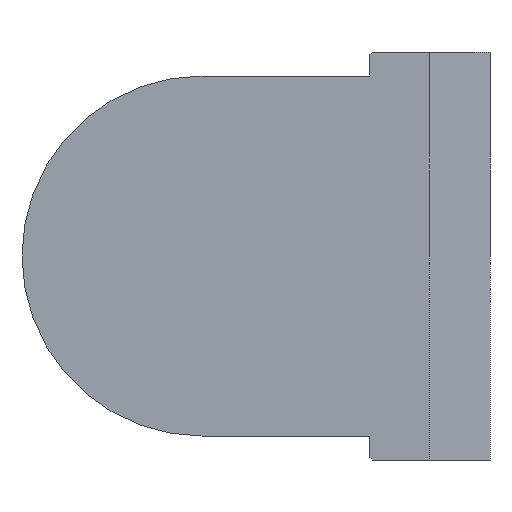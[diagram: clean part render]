
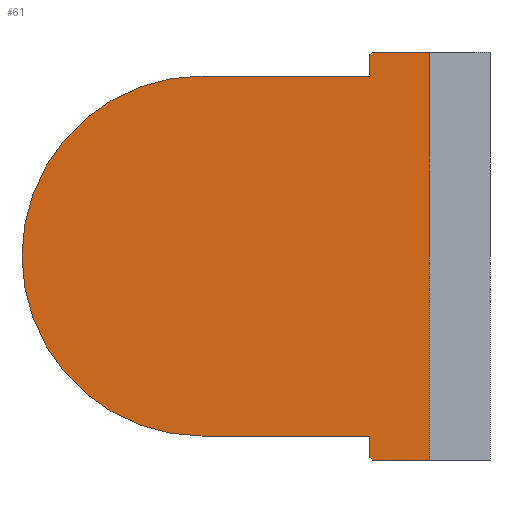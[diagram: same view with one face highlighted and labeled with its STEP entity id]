
A CAD part, left-side view. The second image highlights one B-rep face of the part: STEP entity #61.
In plain terms, the highlighted planar face has unit normal (-1, 0, 0).
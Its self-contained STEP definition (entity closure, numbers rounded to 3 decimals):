
#31 = ORIENTED_EDGE ( 'NONE', *, *, #32, .T. ) ;
#32 = EDGE_CURVE ( 'NONE', #37, #33, #428, .T. ) ;
#33 = VERTEX_POINT ( 'NONE', #429 ) ;
#34 = ORIENTED_EDGE ( 'NONE', *, *, #35, .T. ) ;
#35 = EDGE_CURVE ( 'NONE', #33, #36, #489, .T. ) ;
#36 = VERTEX_POINT ( 'NONE', #484 ) ;
#37 = VERTEX_POINT ( 'NONE', #483 ) ;
#38 = ORIENTED_EDGE ( 'NONE', *, *, #117, .F. ) ;
#39 = EDGE_CURVE ( 'NONE', #68, #40, #482, .T. ) ;
#40 = VERTEX_POINT ( 'NONE', #478 ) ;
#41 = ORIENTED_EDGE ( 'NONE', *, *, #42, .F. ) ;
#42 = EDGE_CURVE ( 'NONE', #43, #40, #477, .T. ) ;
#43 = VERTEX_POINT ( 'NONE', #473 ) ;
#44 = ORIENTED_EDGE ( 'NONE', *, *, #45, .T. ) ;
#45 = EDGE_CURVE ( 'NONE', #43, #46, #472, .T. ) ;
#46 = VERTEX_POINT ( 'NONE', #468 ) ;
#47 = ORIENTED_EDGE ( 'NONE', *, *, #48, .T. ) ;
#48 = EDGE_CURVE ( 'NONE', #46, #49, #467, .T. ) ;
#49 = VERTEX_POINT ( 'NONE', #463 ) ;
#53 = ORIENTED_EDGE ( 'NONE', *, *, #54, .T. ) ;
#54 = EDGE_CURVE ( 'NONE', #55, #56, #520, .T. ) ;
#55 = VERTEX_POINT ( 'NONE', #516 ) ;
#56 = VERTEX_POINT ( 'NONE', #515 ) ;
#57 = ORIENTED_EDGE ( 'NONE', *, *, #58, .T. ) ;
#58 = EDGE_CURVE ( 'NONE', #56, #59, #514, .T. ) ;
#59 = VERTEX_POINT ( 'NONE', #510 ) ;
#61 = ADVANCED_FACE ( 'NONE', ( #505 ), #504, .F. ) ;
#62 = EDGE_LOOP ( 'NONE', ( #53, #57, #66, #69, #41, #44, #47, #38, #31, #34, #115 ) ) ;
#66 = ORIENTED_EDGE ( 'NONE', *, *, #67, .T. ) ;
#67 = EDGE_CURVE ( 'NONE', #59, #68, #494, .T. ) ;
#68 = VERTEX_POINT ( 'NONE', #490 ) ;
#69 = ORIENTED_EDGE ( 'NONE', *, *, #39, .T. ) ;
#111 = EDGE_CURVE ( 'NONE', #36, #55, #611, .T. ) ;
#115 = ORIENTED_EDGE ( 'NONE', *, *, #111, .T. ) ;
#117 = EDGE_CURVE ( 'NONE', #37, #49, #595, .T. ) ;
#425 = DIRECTION ( 'NONE',  ( 0., 1., 0. ) ) ;
#426 = DIRECTION ( 'NONE',  ( -1., 0., 0. ) ) ;
#427 = AXIS2_PLACEMENT_3D ( 'NONE', #434, #426, #425 ) ;
#428 = CIRCLE ( 'NONE', #427, 150. ) ;
#429 = CARTESIAN_POINT ( 'NONE',  ( -345., 290., 0. ) ) ;
#434 = CARTESIAN_POINT ( 'NONE',  ( -345., 140., 0. ) ) ;
#463 = CARTESIAN_POINT ( 'NONE',  ( -345., 0., 150. ) ) ;
#464 = DIRECTION ( 'NONE',  ( 0., 0., -1. ) ) ;
#465 = VECTOR ( 'NONE', #464, 1000. ) ;
#466 = CARTESIAN_POINT ( 'NONE',  ( -345., 0., 170. ) ) ;
#467 = LINE ( 'NONE', #466, #465 ) ;
#468 = CARTESIAN_POINT ( 'NONE',  ( -345., 0., 168. ) ) ;
#469 = DIRECTION ( 'NONE',  ( 0., 0.707, -0.707 ) ) ;
#470 = VECTOR ( 'NONE', #469, 1000. ) ;
#471 = CARTESIAN_POINT ( 'NONE',  ( -345., -2., 170. ) ) ;
#472 = LINE ( 'NONE', #471, #470 ) ;
#473 = CARTESIAN_POINT ( 'NONE',  ( -345., -2., 170. ) ) ;
#474 = DIRECTION ( 'NONE',  ( 0., -1., 0. ) ) ;
#475 = VECTOR ( 'NONE', #474, 1000. ) ;
#476 = CARTESIAN_POINT ( 'NONE',  ( -345., -100., 170. ) ) ;
#477 = LINE ( 'NONE', #476, #475 ) ;
#478 = CARTESIAN_POINT ( 'NONE',  ( -345., -50., 170. ) ) ;
#479 = DIRECTION ( 'NONE',  ( 0., 0., 1. ) ) ;
#480 = VECTOR ( 'NONE', #479, 1000. ) ;
#481 = CARTESIAN_POINT ( 'NONE',  ( -345., -50., 150. ) ) ;
#482 = LINE ( 'NONE', #481, #480 ) ;
#483 = CARTESIAN_POINT ( 'NONE',  ( -345., 140., 150. ) ) ;
#484 = CARTESIAN_POINT ( 'NONE',  ( -345., 140., -150. ) ) ;
#485 = DIRECTION ( 'NONE',  ( 0., 1., 0. ) ) ;
#486 = DIRECTION ( 'NONE',  ( -1., 0., 0. ) ) ;
#487 = CARTESIAN_POINT ( 'NONE',  ( -345., 140., 0. ) ) ;
#488 = AXIS2_PLACEMENT_3D ( 'NONE', #487, #486, #485 ) ;
#489 = CIRCLE ( 'NONE', #488, 150. ) ;
#490 = CARTESIAN_POINT ( 'NONE',  ( -345., -50., -170. ) ) ;
#491 = DIRECTION ( 'NONE',  ( 0., -1., 0. ) ) ;
#492 = VECTOR ( 'NONE', #491, 1000. ) ;
#493 = CARTESIAN_POINT ( 'NONE',  ( -345., -100., -170. ) ) ;
#494 = LINE ( 'NONE', #493, #492 ) ;
#500 = DIRECTION ( 'NONE',  ( 0., 1., 0. ) ) ;
#501 = DIRECTION ( 'NONE',  ( 1., 0., 0. ) ) ;
#502 = CARTESIAN_POINT ( 'NONE',  ( -345., 290., 150. ) ) ;
#503 = AXIS2_PLACEMENT_3D ( 'NONE', #502, #501, #500 ) ;
#504 = PLANE ( 'NONE',  #503 ) ;
#505 = FACE_OUTER_BOUND ( 'NONE', #62, .T. ) ;
#510 = CARTESIAN_POINT ( 'NONE',  ( -345., -2., -170. ) ) ;
#511 = DIRECTION ( 'NONE',  ( 0., -0.707, -0.707 ) ) ;
#512 = VECTOR ( 'NONE', #511, 1000. ) ;
#513 = CARTESIAN_POINT ( 'NONE',  ( -345., 0., -168. ) ) ;
#514 = LINE ( 'NONE', #513, #512 ) ;
#515 = CARTESIAN_POINT ( 'NONE',  ( -345., 0., -168. ) ) ;
#516 = CARTESIAN_POINT ( 'NONE',  ( -345., 0., -150. ) ) ;
#517 = DIRECTION ( 'NONE',  ( 0., 0., -1. ) ) ;
#518 = VECTOR ( 'NONE', #517, 1000. ) ;
#519 = CARTESIAN_POINT ( 'NONE',  ( -345., 0., 170. ) ) ;
#520 = LINE ( 'NONE', #519, #518 ) ;
#592 = DIRECTION ( 'NONE',  ( 0., -1., 0. ) ) ;
#593 = VECTOR ( 'NONE', #592, 1000. ) ;
#594 = CARTESIAN_POINT ( 'NONE',  ( -345., 290., 150. ) ) ;
#595 = LINE ( 'NONE', #594, #593 ) ;
#608 = DIRECTION ( 'NONE',  ( 0., -1., 0. ) ) ;
#609 = VECTOR ( 'NONE', #608, 1000. ) ;
#610 = CARTESIAN_POINT ( 'NONE',  ( -345., 290., -150. ) ) ;
#611 = LINE ( 'NONE', #610, #609 ) ;
